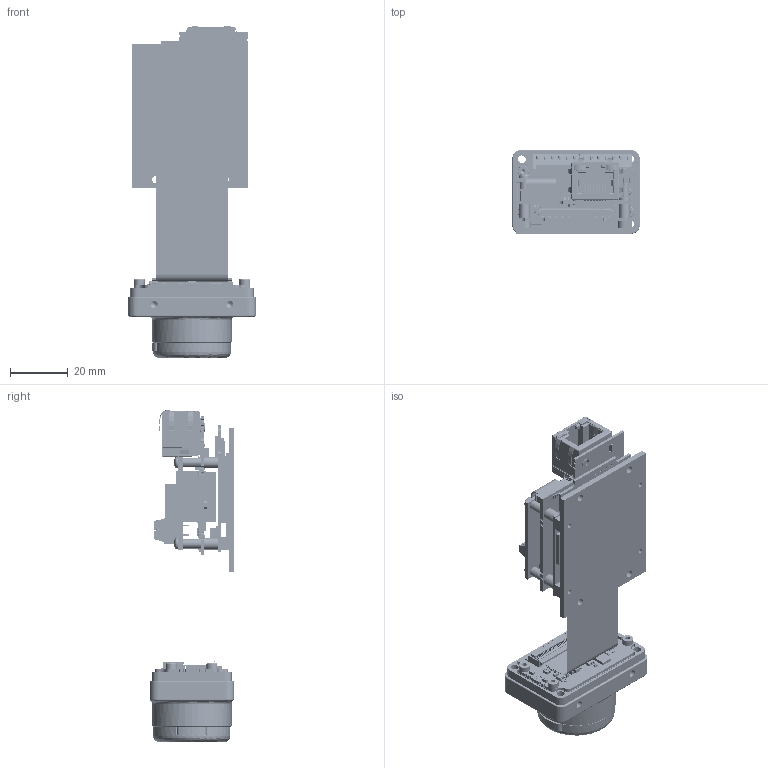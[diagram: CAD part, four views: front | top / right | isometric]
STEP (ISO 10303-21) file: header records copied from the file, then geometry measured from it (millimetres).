
FILE_DESCRIPTION (( 'STEP AP214' ), '1' );
FILE_NAME ('MantaDT-BL-PoE_IMX174_montiert_ÄZ01_SB-Teile.STEP', '2019-10-08T08:20:33', ( '' ), ( '' ), 'SwSTEP 2.0', 'SolidWorks 2018', '' );
FILE_SCHEMA (( 'AUTOMOTIVE_DESIGN' ));
Length unit declared in the file: millimetre
Products named in the file (1): MantaDT-BL-PoE_IMX174_montiert_嚼01_SB-Teile
Bounding box: 44 x 29.21 x 114.58 mm (x, y, z)
Surface area: 52136.3 mm2 (no closed solid volume)
Topology: 0 solids, 304 shells, 21851 faces, 60247 edges, 39556 vertices
Faces by surface type: plane 13552, bspline 4751, cylinder 3167, cone 238, sphere 135, torus 8
Entity records: 1039596 total; most frequent: CARTESIAN_POINT 430031, ORIENTED_EDGE 120194, DIRECTION 90373, EDGE_CURVE 60107, VECTOR 43235, LINE 43235, VERTEX_POINT 39556, EDGE_LOOP 23658
